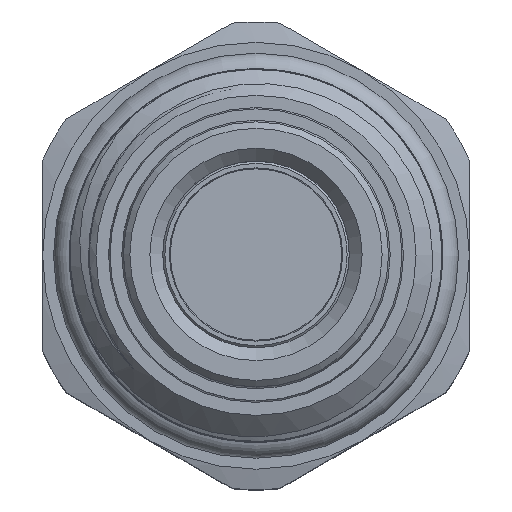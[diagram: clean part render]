
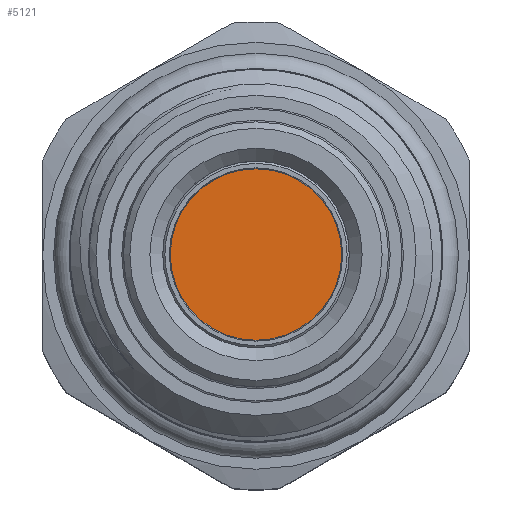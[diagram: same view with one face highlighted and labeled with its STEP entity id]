
A CAD part, top view. The second image highlights one B-rep face of the part: STEP entity #5121.
In plain terms, the highlighted planar face has unit normal (0, 0, 1).
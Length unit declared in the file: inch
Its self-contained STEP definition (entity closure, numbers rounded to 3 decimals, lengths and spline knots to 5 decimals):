
#137=PLANE('',#5437);
#262=CIRCLE('',#5438,0.20075);
#548=FACE_OUTER_BOUND('',#838,.T.);
#838=EDGE_LOOP('',(#3196));
#1831=VERTEX_POINT('',#8253);
#2382=EDGE_CURVE('',#1831,#1831,#262,.T.);
#3196=ORIENTED_EDGE('',*,*,#2382,.F.);
#5121=ADVANCED_FACE('',(#548),#137,.F.);
#5437=AXIS2_PLACEMENT_3D('',#8252,#6003,#6004);
#5438=AXIS2_PLACEMENT_3D('',#8254,#6005,#6006);
#6003=DIRECTION('center_axis',(0.,0.,
-1.));
#6004=DIRECTION('ref_axis',(-1.,0.,0.));
#6005=DIRECTION('center_axis',(0.,0.,
-1.));
#6006=DIRECTION('ref_axis',(0.,-1.,0.));
#8252=CARTESIAN_POINT('Origin',(0.,0.,
2.28816));
#8253=CARTESIAN_POINT('',(0.,0.20075,2.28816));
#8254=CARTESIAN_POINT('Origin',(0.,0.,
2.28816));
